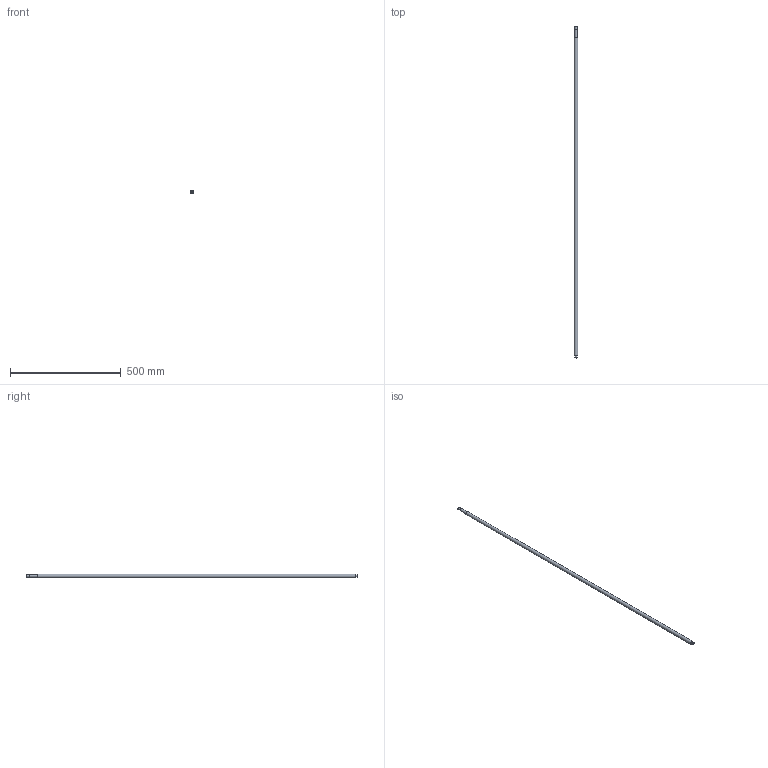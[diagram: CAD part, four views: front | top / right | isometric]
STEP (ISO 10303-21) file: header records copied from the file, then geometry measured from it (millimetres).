
FILE_DESCRIPTION(/* description */ (''),/* implementation_level */ '2;1');
FILE_NAME(/* name */ 'C:\Users\David\Desktop\stepFiles\Profilfuehrung\KUS1605x1500.stp',/* time_stamp */ '2018-06-24T15:08:48+02:00',/* author */ ('David'),/* organization */ (''),/* preprocessor_version */ 'ST-DEVELOPER v17',/* originating_system */ 'Autodesk Inventor 2019',/* authorisation */ '');
FILE_SCHEMA (('AUTOMOTIVE_DESIGN { 1 0 10303 214 3 1 1 }'));
Length unit declared in the file: millimetre
Products named in the file (1): SFU1605xvariabel
Bounding box: 16 x 1500 x 16 mm (x, y, z)
Volume: 294962 mm3; surface area: 74812 mm2
Topology: 1 solids, 1 shells, 15 faces, 34 edges, 26 vertices
Faces by surface type: plane 7, cylinder 6, cone 2
Full cylindrical faces by diameter (mm): 9.6 x1, 10 x3, 12 x1, 16 x1
Entity records: 493 total; most frequent: DIRECTION 92, CARTESIAN_POINT 76, ORIENTED_EDGE 68, AXIS2_PLACEMENT_3D 42, EDGE_CURVE 34, CIRCLE 26, VERTEX_POINT 26, EDGE_LOOP 20
